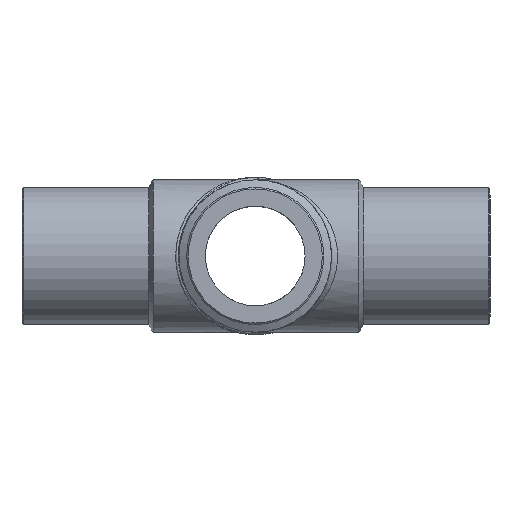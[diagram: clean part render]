
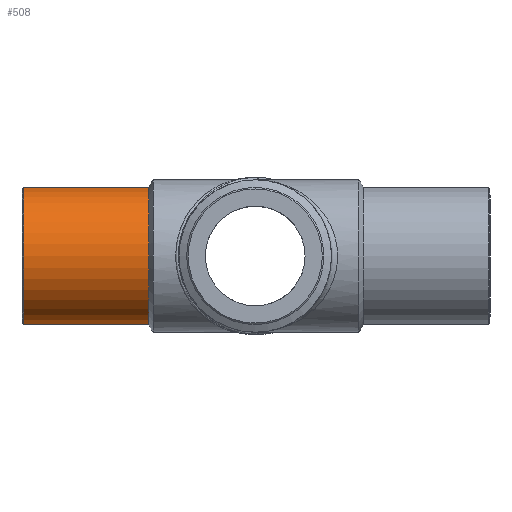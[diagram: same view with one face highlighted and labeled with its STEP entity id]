
A CAD part, front view. The second image highlights one B-rep face of the part: STEP entity #508.
In plain terms, the highlighted cylindrical face has radius 45 mm (diameter 90 mm), a full revolution.
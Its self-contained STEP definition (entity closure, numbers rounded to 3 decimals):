
#115=ORIENTED_EDGE('',*,*,#243,.T.);
#116=ORIENTED_EDGE('',*,*,#242,.T.);
#242=EDGE_CURVE('',#305,#305,#349,.T.);
#243=EDGE_CURVE('',#306,#306,#350,.T.);
#305=VERTEX_POINT('',#903);
#306=VERTEX_POINT('',#906);
#349=CIRCLE('',#574,45.);
#350=CIRCLE('',#576,45.);
#380=EDGE_LOOP('',(#115));
#381=EDGE_LOOP('',(#116));
#440=FACE_BOUND('',#380,.T.);
#441=FACE_BOUND('',#381,.T.);
#493=CYLINDRICAL_SURFACE('',#575,45.);
#508=ADVANCED_FACE('',(#440,#441),#493,.T.);
#574=AXIS2_PLACEMENT_3D('',#902,#652,#653);
#575=AXIS2_PLACEMENT_3D('',#904,#654,#655);
#576=AXIS2_PLACEMENT_3D('',#905,#656,#657);
#652=DIRECTION('',(-1.,0.,0.));
#653=DIRECTION('',(0.,0.,1.));
#654=DIRECTION('',(-1.,0.,0.));
#655=DIRECTION('',(0.,0.,1.));
#656=DIRECTION('',(1.,0.,0.));
#657=DIRECTION('',(0.,0.,-1.));
#902=CARTESIAN_POINT('',(-70.,0.,0.));
#903=CARTESIAN_POINT('',(-70.,0.,45.));
#904=CARTESIAN_POINT('',(-60.,0.,0.));
#905=CARTESIAN_POINT('',(-152.,0.,0.));
#906=CARTESIAN_POINT('',(-152.,0.,-45.));
